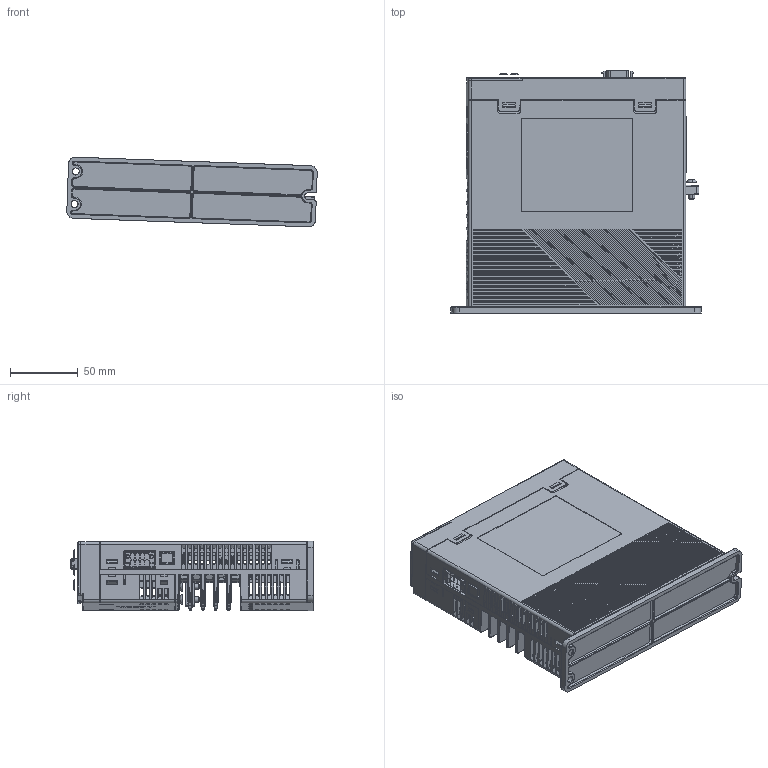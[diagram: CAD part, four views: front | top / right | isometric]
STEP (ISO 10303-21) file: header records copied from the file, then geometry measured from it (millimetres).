
FILE_DESCRIPTION((''),'2;1');
FILE_NAME('23CRN-01-00_45_SW0002','2025-09-30T13:54:48',('wuyh130'),(''),'CREO PARAMETRIC BY PTC INC, 2021063','CREO PARAMETRIC BY PTC INC, 2021063','');
FILE_SCHEMA(('AUTOMOTIVE_DESIGN { 1 0 10303 214 1 1 1 1 }'));
Products named in the file (1): 23CRN-01-00_45_SW0002
Bounding box: 184.15 x 178.2 x 51.22 mm (x, y, z)
Surface area: 235847.7 mm2 (no closed solid volume)
Topology: 0 solids, 347 shells, 2616 faces, 15274 edges, 12607 vertices
Faces by surface type: plane 1608, cylinder 670, bspline 144, extrusion 101, cone 54, torus 23, sphere 16
Entity records: 185783 total; most frequent: CARTESIAN_POINT 60700, DIRECTION 20175, ORIENTED_EDGE 19327, EDGE_CURVE 15266, VERTEX_POINT 12607, VECTOR 11122, LINE 11021, AXIS2_PLACEMENT_3D 4525
